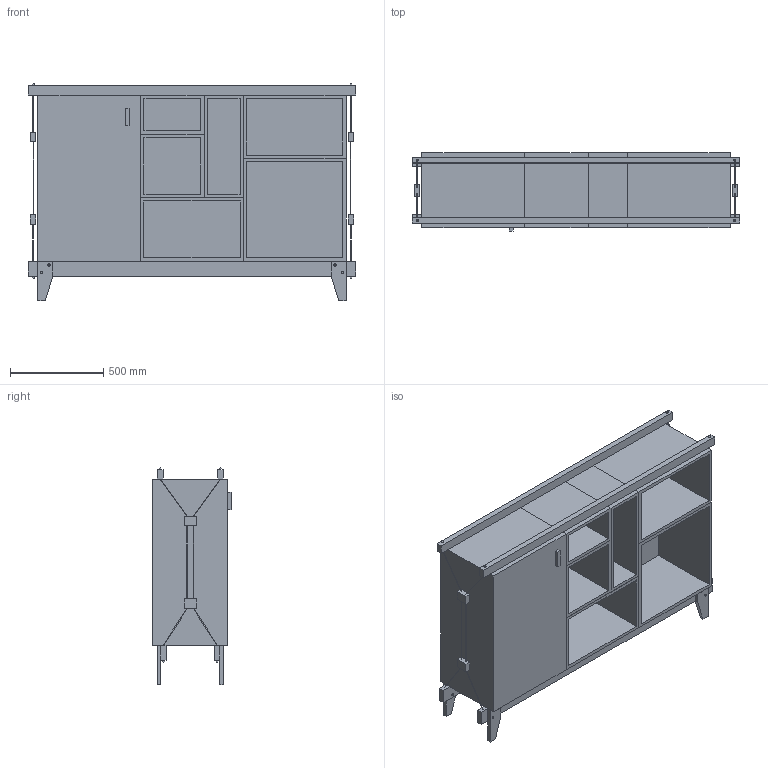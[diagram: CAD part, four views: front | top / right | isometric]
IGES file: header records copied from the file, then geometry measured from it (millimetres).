
Start section: Data from Parasolid IGES Translator 17.0.49, Copyright(c) 2006 Siemens P LM Software. All Rights Reserved.
Global section: file name: Saam E.igs; native system: By Siemens PLM Incorporated; preprocessor: XPlus GENERIC/IGES 17.0.49; author: Noname; organization: Noname; date: 20170605.063102; units: metre
Bounding box: 1750 x 418 x 1162 mm (x, y, z)
Volume: 291998042.6 mm3; surface area: 12908227.1 mm2
Topology: 35 solids, 35 shells, 229 faces, 452 edges, 300 vertices
Faces by surface type: plane 193, cylinder 28, sphere 8
Full cylindrical faces by diameter (mm): 3 x12, 12 x16
